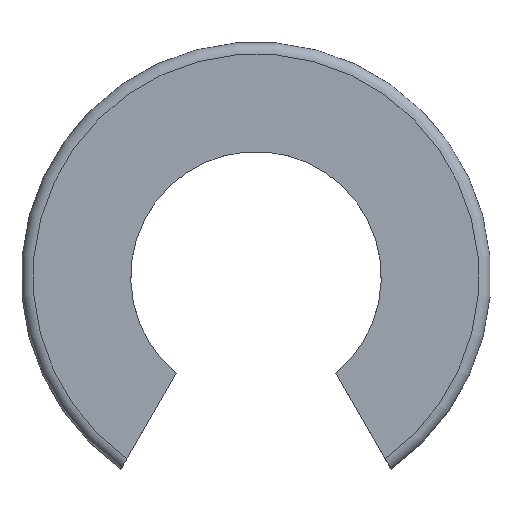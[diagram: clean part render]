
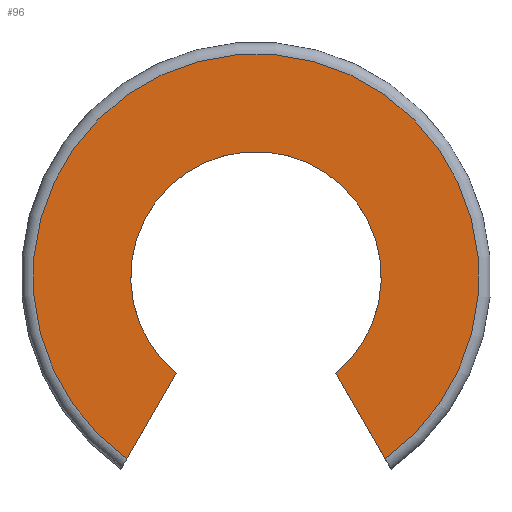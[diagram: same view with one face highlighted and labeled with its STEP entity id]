
A CAD part, left-side view. The second image highlights one B-rep face of the part: STEP entity #96.
In plain terms, the highlighted planar face has unit normal (-1, 0, 0).
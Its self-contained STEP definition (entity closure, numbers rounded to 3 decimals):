
#96=ADVANCED_FACE('',(#144),#145,.T.);
#144=FACE_OUTER_BOUND('',#196,.T.);
#145=PLANE('',#197);
#196=EDGE_LOOP('',(#373,#374,#375,#376));
#197=AXIS2_PLACEMENT_3D('',#377,#378,#379);
#373=ORIENTED_EDGE('',*,*,#457,.T.);
#374=ORIENTED_EDGE('',*,*,#496,.T.);
#375=ORIENTED_EDGE('',*,*,#454,.T.);
#376=ORIENTED_EDGE('',*,*,#434,.T.);
#377=CARTESIAN_POINT('',(0.0,0.0,0.0));
#378=DIRECTION('',(-1.0,0.0,0.0));
#379=DIRECTION('',(0.0,-1.0,0.0));
#434=EDGE_CURVE('',#513,#511,#514,.T.);
#454=EDGE_CURVE('',#549,#513,#552,.T.);
#457=EDGE_CURVE('',#511,#555,#557,.T.);
#496=EDGE_CURVE('',#555,#549,#616,.T.);
#511=VERTEX_POINT('',#636);
#513=VERTEX_POINT('',#643);
#514=LINE('',#644,#645);
#549=VERTEX_POINT('',#705);
#552=CIRCLE('',#711,4.001);
#555=VERTEX_POINT('',#714);
#557=CIRCLE('',#721,7.119);
#616=LINE('',#800,#801);
#636=CARTESIAN_POINT('',(0.0,-4.122,-5.804));
#643=CARTESIAN_POINT('',(0.0,-2.551,-3.083));
#644=CARTESIAN_POINT('',(0.0,-0.578,0.334));
#645=VECTOR('',#817,1.0);
#705=CARTESIAN_POINT('',(0.0,2.551,-3.083));
#711=AXIS2_PLACEMENT_3D('',#835,#836,#837);
#714=CARTESIAN_POINT('',(0.0,4.122,-5.804));
#721=AXIS2_PLACEMENT_3D('',#841,#842,#843);
#800=CARTESIAN_POINT('',(0.0,0.578,0.334));
#801=VECTOR('',#921,1.0);
#817=DIRECTION('',(0.0,-0.5,-0.866));
#835=CARTESIAN_POINT('',(0.0,0.0,0.0));
#836=DIRECTION('',(1.0,0.0,0.0));
#837=DIRECTION('',(0.0,0.0,-1.0));
#841=CARTESIAN_POINT('',(0.0,0.0,0.0));
#842=DIRECTION('',(-1.0,0.0,0.0));
#843=DIRECTION('',(0.0,0.0,1.0));
#921=DIRECTION('',(0.0,-0.5,0.866));
